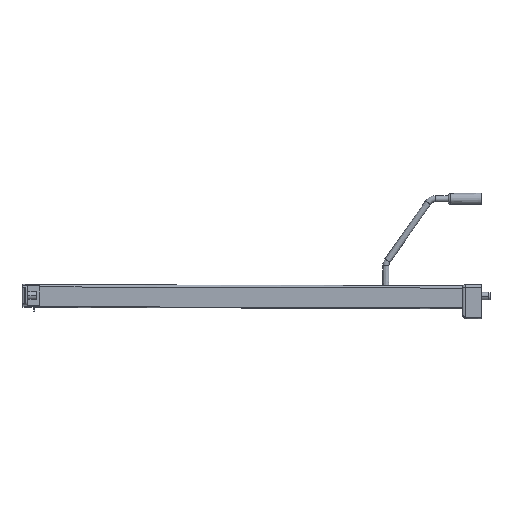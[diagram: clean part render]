
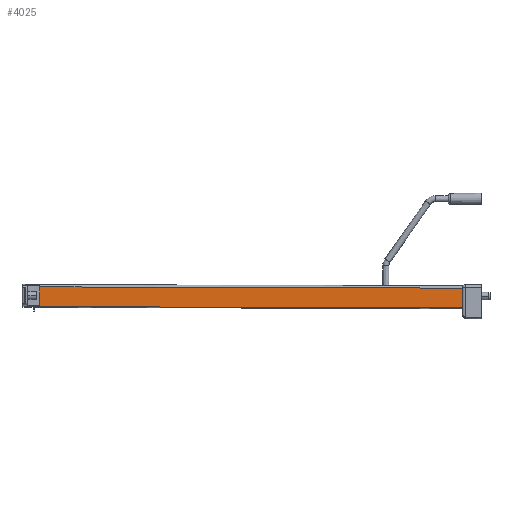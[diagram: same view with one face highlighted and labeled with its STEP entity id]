
A CAD part, left-side view. The second image highlights one B-rep face of the part: STEP entity #4025.
In plain terms, the highlighted planar face has unit normal (-1, 0, 0).
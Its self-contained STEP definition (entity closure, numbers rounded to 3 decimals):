
#138 = PLANE ( 'NONE',  #3835 ) ;
#139 = CARTESIAN_POINT ( 'NONE',  ( -5.25, 634.226, -13.7 ) ) ;
#140 = DIRECTION ( 'NONE',  ( 1., 0., 0. ) ) ;
#141 = DIRECTION ( 'NONE',  ( 0., 0., 1. ) ) ;
#852 = CARTESIAN_POINT ( 'NONE',  ( -5.25, 580.9, -12.42 ) ) ;
#853 = DIRECTION ( 'NONE',  ( 0., 1., 0. ) ) ;
#854 = CARTESIAN_POINT ( 'NONE',  ( -5.25, 580.9, 13.6 ) ) ;
#855 = DIRECTION ( 'NONE',  ( 0., 0., -1. ) ) ;
#1505 = LINE ( 'NONE', #2328, #1506 ) ;
#1506 = VECTOR ( 'NONE', #2329, 1000. ) ;
#1507 = LINE ( 'NONE', #2330, #1508 ) ;
#1508 = VECTOR ( 'NONE', #2331, 1000. ) ;
#1509 = LINE ( 'NONE', #2332, #1510 ) ;
#1510 = VECTOR ( 'NONE', #2333, 1000. ) ;
#1511 = LINE ( 'NONE', #2334, #1512 ) ;
#1512 = VECTOR ( 'NONE', #2335, 1000. ) ;
#1513 = LINE ( 'NONE', #852, #1514 ) ;
#1514 = VECTOR ( 'NONE', #853, 1000. ) ;
#1515 = LINE ( 'NONE', #854, #1516 ) ;
#1516 = VECTOR ( 'NONE', #855, 1000. ) ;
#1699 = FACE_OUTER_BOUND ( 'NONE', #2824, .T. ) ;
#2082 = VERTEX_POINT ( 'NONE', #2481 ) ;
#2111 = VERTEX_POINT ( 'NONE', #2510 ) ;
#2328 = CARTESIAN_POINT ( 'NONE',  ( -5.25, 634.149, 12.3 ) ) ;
#2329 = DIRECTION ( 'NONE',  ( 0., -1., -0.003 ) ) ;
#2330 = CARTESIAN_POINT ( 'NONE',  ( -5.25, 25., 15. ) ) ;
#2331 = DIRECTION ( 'NONE',  ( 0., 0., 1. ) ) ;
#2332 = CARTESIAN_POINT ( 'NONE',  ( -5.25, 634.226, -13.7 ) ) ;
#2333 = DIRECTION ( 'NONE',  ( 0., -1., -0.003 ) ) ;
#2334 = CARTESIAN_POINT ( 'NONE',  ( -5.25, 601.4, -13.7 ) ) ;
#2335 = DIRECTION ( 'NONE',  ( 0., 0., 1. ) ) ;
#2481 = CARTESIAN_POINT ( 'NONE',  ( -5.25, 601.4, -12.42 ) ) ;
#2510 = CARTESIAN_POINT ( 'NONE',  ( -5.25, 580.9, 12.142 ) ) ;
#2566 = VERTEX_POINT ( 'NONE', #4855 ) ;
#2569 = VERTEX_POINT ( 'NONE', #4858 ) ;
#2572 = VERTEX_POINT ( 'NONE', #4861 ) ;
#2576 = VERTEX_POINT ( 'NONE', #4865 ) ;
#2824 = EDGE_LOOP ( 'NONE', ( #5267, #5268, #5269, #5270, #5271, #5272 ) ) ;
#3663 = EDGE_CURVE ( 'NONE', #2111, #2576, #1505, .T. ) ;
#3664 = EDGE_CURVE ( 'NONE', #2572, #2576, #1507, .T. ) ;
#3665 = EDGE_CURVE ( 'NONE', #2566, #2572, #1509, .T. ) ;
#3666 = EDGE_CURVE ( 'NONE', #2566, #2082, #1511, .T. ) ;
#3667 = EDGE_CURVE ( 'NONE', #2569, #2082, #1513, .T. ) ;
#3668 = EDGE_CURVE ( 'NONE', #2111, #2569, #1515, .T. ) ;
#3835 = AXIS2_PLACEMENT_3D ( 'NONE', #139, #140, #141 ) ;
#4025 = ADVANCED_FACE ( 'NONE', ( #1699 ), #138, .F. ) ;
#4855 = CARTESIAN_POINT ( 'NONE',  ( -5.25, 601.4, -13.797 ) ) ;
#4858 = CARTESIAN_POINT ( 'NONE',  ( -5.25, 580.9, -12.42 ) ) ;
#4861 = CARTESIAN_POINT ( 'NONE',  ( -5.25, 25., -15.5 ) ) ;
#4865 = CARTESIAN_POINT ( 'NONE',  ( -5.25, 25., 10.5 ) ) ;
#5267 = ORIENTED_EDGE ( 'NONE', *, *, #3668, .T. ) ;
#5268 = ORIENTED_EDGE ( 'NONE', *, *, #3667, .T. ) ;
#5269 = ORIENTED_EDGE ( 'NONE', *, *, #3666, .F. ) ;
#5270 = ORIENTED_EDGE ( 'NONE', *, *, #3665, .T. ) ;
#5271 = ORIENTED_EDGE ( 'NONE', *, *, #3664, .T. ) ;
#5272 = ORIENTED_EDGE ( 'NONE', *, *, #3663, .F. ) ;
